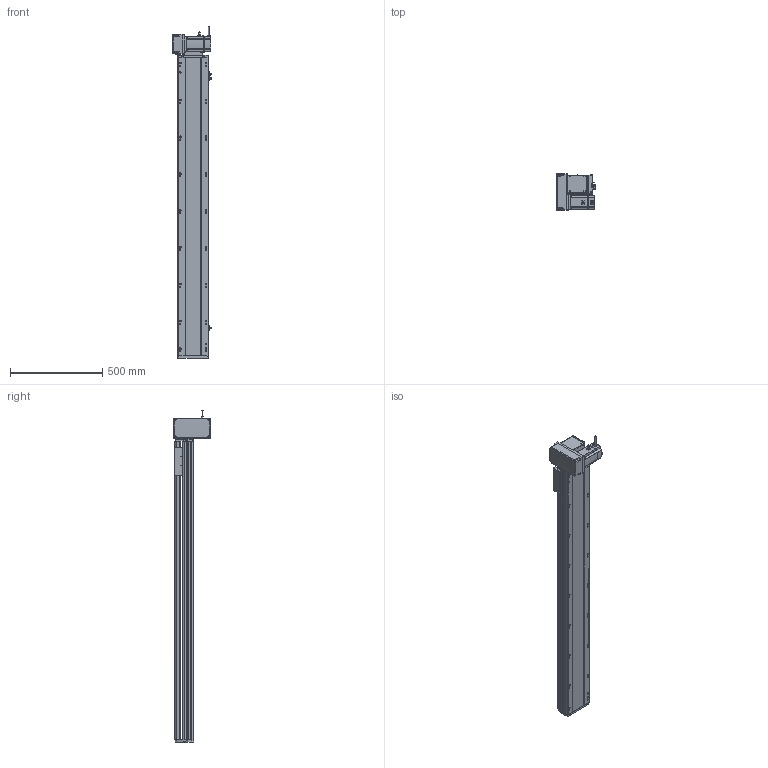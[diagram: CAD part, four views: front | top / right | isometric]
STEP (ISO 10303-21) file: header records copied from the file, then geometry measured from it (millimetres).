
FILE_DESCRIPTION (( 'STEP AP214' ), '1' );
FILE_NAME ('RTB17S-XX-1350-LM-M75-C4.STEP', '2025-12-12T00:40:37', ( '' ), ( '' ), 'SwSTEP 2.0', 'SolidWorks 2018', '' );
FILE_SCHEMA (( 'AUTOMOTIVE_DESIGN' ));
Length unit declared in the file: millimetre
Products named in the file (15): RTB22S-GY-008-M75--萇儂啣^RTB17S-LM-々湍釱蚾饜-750W_RTB17S-XX-XX-LM-M75-C4; RTB17S-LM-々湍釱蚾饜-750W^RTB17S-XX-XX-LM-M75-C4; RTB17S-L-014-T20-P75--々湍釱^RTB17S-LM-々湍釱蚾饜-750W_RTB17S-XX-XX-LM-M75-C4; RTB22S-GY-018P^RTB17S-LM-々湍釱蚾饜-750W_RTB17S-XX-XX-LM-M75-C4; RTH13-BL-012覜茼え俋离^RTB17S-賑釱_RTB17S-XX-XX-LM-M75-C4; RTB22S-GY-017P^RTB17S-LM-々湍釱蚾饜-750W_RTB17S-XX-XX-LM-M75-C4; RTB17S-L-007奻裔^RTB17S-XX-XX-LM-M75-C4; RTB17S-L-004-賑釱^RTB17S-賑釱_RTB17S-XX-XX-LM-M75-C4; EE672^RTB17S-XX-XX-LM-M75-C4; RTB22S-GY-005P^RTB17S-LM-々湍釱蚾饜-750W_RTB17S-XX-XX-LM-M75-C4; RTB17S-賑釱^RTB17S-XX-XX-LM-M75-C4; RTB17S-L-001-耜醱啣^RTB17S-XX-XX-LM-M75-C4; RTB17-R-011菁釱^RTB17S-XX-XX-LM-M75-C4; 750W萇儂^RTB17S-XX-XX-LM-M75-C4; RTB17S-XX-1350-LM-M75-C4
Assembly tree (17 placements, depth 3):
  RTB17S-XX-1350-LM-M75-C4
    RTB17-R-011菁釱^RTB17S-XX-XX-LM-M75-C4
    EE672^RTB17S-XX-XX-LM-M75-C4  x3
    RTB17S-L-001-耜醱啣^RTB17S-XX-XX-LM-M75-C4
    RTB17S-賑釱^RTB17S-XX-XX-LM-M75-C4
      RTB17S-L-004-賑釱^RTB17S-賑釱_RTB17S-XX-XX-LM-M75-C4
      RTH13-BL-012覜茼え俋离^RTB17S-賑釱_RTB17S-XX-XX-LM-M75-C4
    RTB17S-L-007奻裔^RTB17S-XX-XX-LM-M75-C4
    750W萇儂^RTB17S-XX-XX-LM-M75-C4
    RTB17S-LM-々湍釱蚾饜-750W^RTB17S-XX-XX-LM-M75-C4
      RTB17S-L-014-T20-P75--々湍釱^RTB17S-LM-々湍釱蚾饜-750W_RTB17S-XX-XX-LM-M75-C4
      RTB22S-GY-005P^RTB17S-LM-々湍釱蚾饜-750W_RTB17S-XX-XX-LM-M75-C4
      RTB22S-GY-017P^RTB17S-LM-々湍釱蚾饜-750W_RTB17S-XX-XX-LM-M75-C4  x2
      RTB22S-GY-008-M75--萇儂啣^RTB17S-LM-々湍釱蚾饜-750W_RTB17S-XX-XX-LM-M75-C4
      RTB22S-GY-018P^RTB17S-LM-々湍釱蚾饜-750W_RTB17S-XX-XX-LM-M75-C4
Bounding box: 210.4 x 200 x 1802.2 mm (x, y, z)
Volume: 14389044.7 mm3; surface area: 2500834.3 mm2
Topology: 17 solids, 17 shells, 2121 faces, 5890 edges, 3806 vertices
Faces by surface type: plane 974, cylinder 731, bspline 294, cone 110, sphere 8, torus 4
Entity records: 59638 total; most frequent: CARTESIAN_POINT 17554, ORIENTED_EDGE 8624, DIRECTION 8042, EDGE_CURVE 4312, AXIS2_PLACEMENT_3D 2826, VERTEX_POINT 2810, VECTOR 2390, LINE 2390
